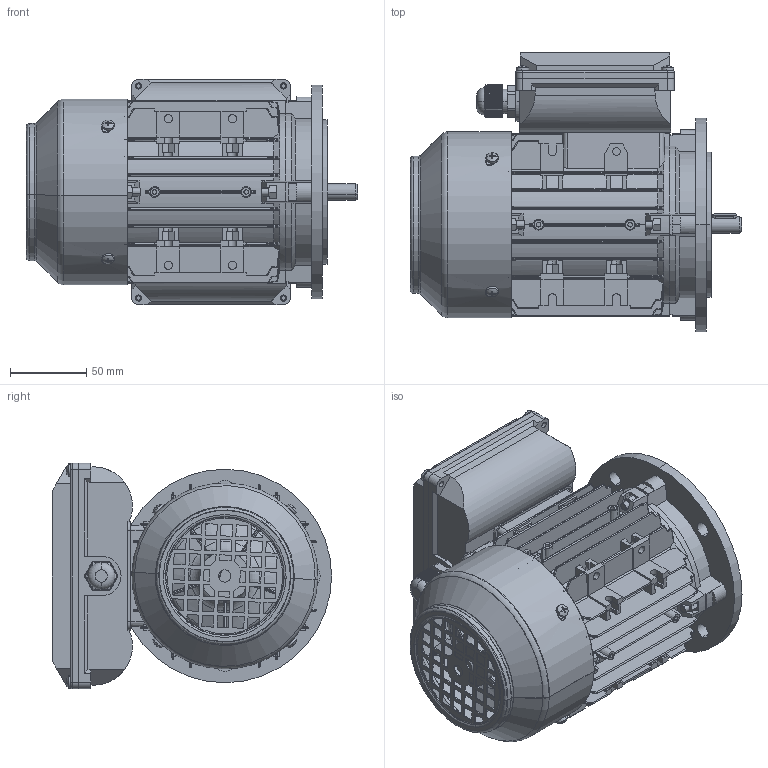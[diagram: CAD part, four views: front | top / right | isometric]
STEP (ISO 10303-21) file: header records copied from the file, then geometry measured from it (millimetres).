
FILE_DESCRIPTION (( 'STEP AP203' ), '1' );
FILE_NAME ('ML2 63 B5.STEP', '2023-10-20T02:04:12', ( '' ), ( '' ), 'SwSTEP 2.0', 'SolidWorks 2016', '' );
FILE_SCHEMA (( 'CONFIG_CONTROL_DESIGN' ));
Length unit declared in the file: millimetre
Products named in the file (15): TAN63 B5裔; cross recessed thread forming screws gb_GB_CROSS_SCREWS_TYPE138 M4X10-N; TAN63 綴裔; hexagon nuts grade c gb_GB_FASTENER_NUT_SNC1 M5-N; plain parallel keys_GB_CONNECTING_PIECE_KEYS_CSK 4X16; hexagon socket head cap screws gb_GB_FASTENER_SCREWS_HSHCS M5X25-N; 堤盄蹟杶M16; ML63-71諉盄碟釱(臏); TA63瑞欶; ML63-71臏諉盄碟軞傖.SLDPRT; ML2 63 B5; TAN63 蛌粣; MS63 瑞珔; ML63-71諉盄碟裔(臏); TAN63 儂褲
Assembly tree (35 placements, depth 3):
  ML2 63 B5
    TAN63 儂褲
    TAN63 綴裔
    MS63 瑞珔
    TA63瑞欶
    TAN63 蛌粣
    cross recessed thread forming screws gb_GB_CROSS_SCREWS_TYPE138 M4X10-N  x4
    plain parallel keys_GB_CONNECTING_PIECE_KEYS_CSK 4X16
    TAN63 B5裔
    hexagon nuts grade c gb_GB_FASTENER_NUT_SNC1 M5-N  x8
    hexagon socket head cap screws gb_GB_FASTENER_SCREWS_HSHCS M5X25-N  x8
    ML63-71臏諉盄碟軞傖.SLDPRT
      cross recessed thread forming screws gb_GB_CROSS_SCREWS_TYPE138 M4X10-N  x4
      堤盄蹟杶M16
      ML63-71諉盄碟裔(臏)
      ML63-71諉盄碟釱(臏)
Bounding box: 217 x 183 x 148 mm (x, y, z)
Volume: 626442.4 mm3; surface area: 441566.3 mm2
Topology: 34 solids, 34 shells, 3675 faces, 9646 edges, 6091 vertices
Faces by surface type: plane 1791, cylinder 875, bspline 494, cone 316, torus 171, sphere 28
Entity records: 115790 total; most frequent: CARTESIAN_POINT 38435, ORIENTED_EDGE 17024, DIRECTION 14055, EDGE_CURVE 8512, VERTEX_POINT 5412, AXIS2_PLACEMENT_3D 4901, VECTOR 4253, LINE 4253
